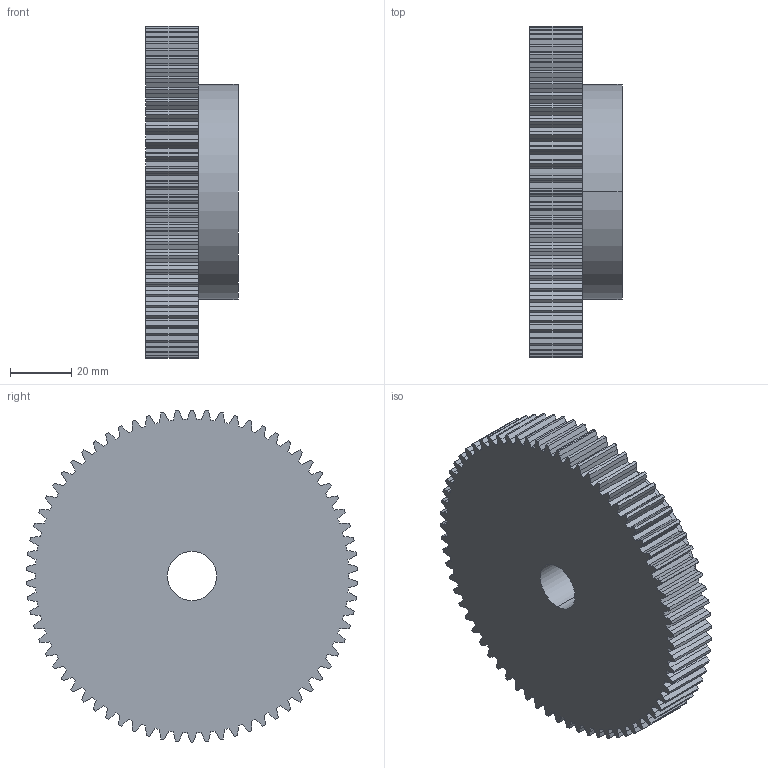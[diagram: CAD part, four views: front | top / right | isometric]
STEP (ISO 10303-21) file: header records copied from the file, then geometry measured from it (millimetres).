
FILE_DESCRIPTION (( 'STEP AP203' ), '1' );
FILE_NAME ('PM 27070.STEP', '2013-09-24T12:24:09', ( '' ), ( '' ), 'SwSTEP 2.0', 'SolidWorks 2010', '' );
FILE_SCHEMA (( 'CONFIG_CONTROL_DESIGN' ));
Length unit declared in the file: millimetre
Products named in the file (1): PM 27070
Bounding box: 30 x 107.93 x 108 mm (x, y, z)
Volume: 190276.9 mm3; surface area: 31773.8 mm2
Topology: 1 solids, 1 shells, 428 faces, 1275 edges, 850 vertices
Faces by surface type: plane 283, cylinder 145
Entity records: 14432 total; most frequent: CARTESIAN_POINT 2560, ORIENTED_EDGE 2550, DIRECTION 2421, EDGE_CURVE 1275, VECTOR 983, LINE 983, VERTEX_POINT 850, AXIS2_PLACEMENT_3D 719
